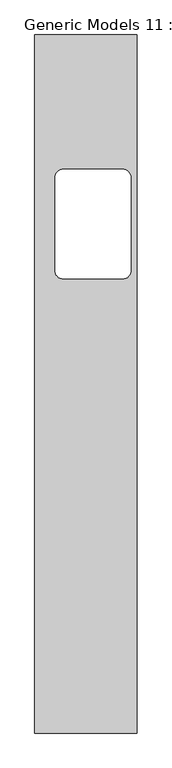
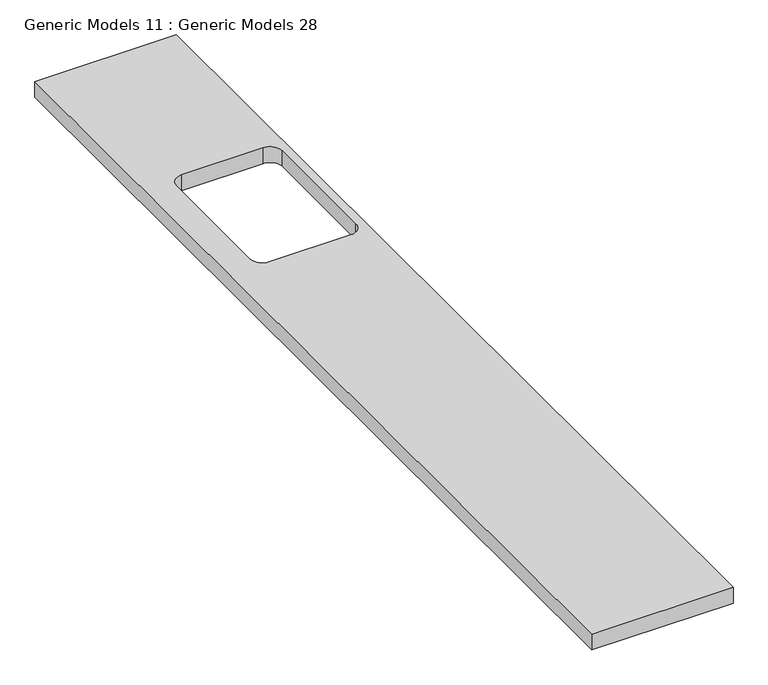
"""IFC4 building model written with IfcOpenShell, lengths in millimetres: proxy geometry, Generic Models 11 : Generic Models 28."""

import ifcopenshell
import ifcopenshell.guid

model = None  # the IFC model being written
_history = None  # IfcOwnerHistory: only IFC2X3 demands one
_inside = {}  # id of a spatial element -> (the spatial element, [elements in it])
_under = {}  # id of a project, library or spatial element -> (it, [spatial elements below it])
_declared = {}  # id of a project -> (the project, [libraries it declares])
_typed = {}  # id of a type object -> (the type object, [elements of that type])
_made_of = {}  # id of a material, layer set ... -> (it, [elements and type objects made of it])


def new_model(schema):
    """Start an empty IFC model of exactly this schema.

    Asked for "IFC4X3", IfcOpenShell would pick the latest addendum, in which some entities
    have other attributes; the version numbers below select the first issue.
    IFC2X3 requires an IfcOwnerHistory on every rooted entity: one is made here for all.
    """
    global model, _history
    if schema == "IFC4X3":
        model = ifcopenshell.file(schema_version=(4, 3, 0, 0))
    else:
        model = ifcopenshell.file(schema=schema)
    _inside.clear()
    _under.clear()
    _declared.clear()
    _typed.clear()
    _made_of.clear()
    _history = None
    if model.schema == "IFC2X3":
        org = make("IfcOrganization", Name="unknown")
        user = make(
            "IfcPersonAndOrganization",
            ThePerson=make("IfcPerson", FamilyName="unknown"),
            TheOrganization=org,
        )
        app = make(
            "IfcApplication",
            ApplicationDeveloper=org,
            Version="unknown",
            ApplicationFullName="unknown",
            ApplicationIdentifier="unknown",
        )
        _history = make(
            "IfcOwnerHistory",
            OwningUser=user,
            OwningApplication=app,
            ChangeAction="ADDED",
            CreationDate=0,
        )
    return model


def make(cls, **values):
    """One entity of the class cls with the attributes given. An attribute that is None is left unset."""
    return model.create_entity(
        cls, **{name: value for name, value in values.items() if value is not None}
    )


def rooted(cls, **values):
    """An entity with a GlobalId (a new one), such as an element, a storey or a relation."""
    return make(cls, GlobalId=ifcopenshell.guid.new(), OwnerHistory=_history, **values)


def si_unit(unit_type, name, prefix=None):
    """IfcSIUnit, for example si_unit("LENGTHUNIT", "METRE", prefix="MILLI")."""
    return make("IfcSIUnit", UnitType=unit_type, Prefix=prefix, Name=name)


def assignment(units):
    """IfcUnitAssignment: the units of a project."""
    return None if units is None else make("IfcUnitAssignment", Units=units)


def point(xyz):
    """IfcCartesianPoint."""
    return None if xyz is None else make("IfcCartesianPoint", Coordinates=xyz)


def direction(xyz):
    """IfcDirection."""
    return None if xyz is None else make("IfcDirection", DirectionRatios=xyz)


def frame(location, z_axis=None, x_axis=None):
    """IfcAxis2Placement3D, a coordinate frame: its origin and axes. An axis left out is left unset."""
    return make(
        "IfcAxis2Placement3D",
        Location=point(location),
        Axis=direction(z_axis),
        RefDirection=direction(x_axis),
    )


def frame_2d(location, x_axis=None):
    """IfcAxis2Placement2D, a coordinate frame in the plane: its origin and x axis."""
    return make(
        "IfcAxis2Placement2D", Location=point(location), RefDirection=direction(x_axis)
    )


def origin():
    """The frame at (0, 0, 0) with its axes left unset."""
    return frame((0.0, 0.0, 0.0))


def place(relative_to, where):
    """IfcLocalPlacement: puts the frame where relative to a parent placement (None: the world)."""
    return make(
        "IfcLocalPlacement", PlacementRelTo=relative_to, RelativePlacement=where
    )


def context(
    kind, dimensions, precision=None, world=None, true_north=None, identifier=None
):
    """IfcGeometricRepresentationContext, for example the 3D "Model" context."""
    return make(
        "IfcGeometricRepresentationContext",
        ContextIdentifier=identifier,
        ContextType=kind,
        CoordinateSpaceDimension=dimensions,
        Precision=precision,
        WorldCoordinateSystem=world,
        TrueNorth=true_north,
    )


def project(units=None, contexts=None):
    """IfcProject with its units and contexts."""
    return rooted(
        "IfcProject",
        Name="project",
        RepresentationContexts=contexts,
        UnitsInContext=assignment(units),
    )


def spatial(cls, under=None, at=None, **own):
    """A site, building, storey or space (cls), placed at a placement, below another one or the project."""
    s = rooted(cls, ObjectPlacement=at, **own)
    if under is not None:
        _under.setdefault(under.id(), (under, []))[1].append(s)
    return s


def polyline(points):
    """IfcPolyline through the points."""
    return make("IfcPolyline", Points=[point(p) for p in points])


def circle_curve(where, radius):
    """IfcCircle in the frame where."""
    return make("IfcCircle", Position=where, Radius=radius)


def trimmed(basis, trim1, trim2, sense, master):
    """IfcTrimmedCurve: the piece of a basis curve between two trims."""
    return make(
        "IfcTrimmedCurve",
        BasisCurve=basis,
        Trim1=trim1,
        Trim2=trim2,
        SenseAgreement=sense,
        MasterRepresentation=master,
    )


def segment(curve, same_sense, transition):
    """IfcCompositeCurveSegment."""
    return make(
        "IfcCompositeCurveSegment",
        Transition=transition,
        SameSense=same_sense,
        ParentCurve=curve,
    )


def composite_curve(segments, self_intersect=None):
    """IfcCompositeCurve: segments joined end to end."""
    return make("IfcCompositeCurve", Segments=segments, SelfIntersect=self_intersect)


def outline(outer, holes=None, kind="AREA"):
    """IfcArbitraryClosedProfileDef: a profile drawn as a closed curve; with holes, ...WithVoids."""
    if holes is None:
        return make("IfcArbitraryClosedProfileDef", ProfileType=kind, OuterCurve=outer)
    return make(
        "IfcArbitraryProfileDefWithVoids",
        ProfileType=kind,
        OuterCurve=outer,
        InnerCurves=holes,
    )


def extrude(swept, where, along, depth):
    """IfcExtrudedAreaSolid: the profile swept, set in the frame where, extruded along a direction by depth."""
    return make(
        "IfcExtrudedAreaSolid",
        SweptArea=swept,
        Position=where,
        ExtrudedDirection=direction(along),
        Depth=depth,
    )


def shape(context_of_items, identifier, shape_type, items):
    """IfcShapeRepresentation: the items that make up one representation, for example the "Body"."""
    return make(
        "IfcShapeRepresentation",
        ContextOfItems=context_of_items,
        RepresentationIdentifier=identifier,
        RepresentationType=shape_type,
        Items=items,
    )


def source(mapping_origin, context_of_items, identifier, shape_type, items):
    """IfcRepresentationMap: a shape defined once, which mapped items show again and again."""
    return make(
        "IfcRepresentationMap",
        MappingOrigin=mapping_origin,
        MappedRepresentation=shape(context_of_items, identifier, shape_type, items),
    )


def transform(
    local_origin,
    x_axis=None,
    y_axis=None,
    z_axis=None,
    scale=None,
    scale2=None,
    scale3=None,
    uniform=True,
):
    """IfcCartesianTransformationOperator3D, or its non-uniform kind. x_axis, y_axis, z_axis: its Axis1, 2, 3."""
    if uniform:
        return make(
            "IfcCartesianTransformationOperator3D",
            Axis1=direction(x_axis),
            Axis2=direction(y_axis),
            LocalOrigin=point(local_origin),
            Scale=scale,
            Axis3=direction(z_axis),
        )
    return make(
        "IfcCartesianTransformationOperator3DnonUniform",
        Axis1=direction(x_axis),
        Axis2=direction(y_axis),
        LocalOrigin=point(local_origin),
        Scale=scale,
        Axis3=direction(z_axis),
        Scale2=scale2,
        Scale3=scale3,
    )


def mapped(mapping_source, mapping_target):
    """IfcMappedItem: shows the shape of a source again, moved by a transform."""
    return make(
        "IfcMappedItem", MappingSource=mapping_source, MappingTarget=mapping_target
    )


def made_of(thing, what):
    """Note that an element or type object is made of a material, layer set ...; save() writes the relation."""
    if what is not None:
        _made_of.setdefault(what.id(), (what, []))[1].append(thing)
    return thing


def element(
    cls,
    number,
    at=None,
    inside=None,
    cuts=None,
    type_object=None,
    material=None,
    context=None,
    identifier="Body",
    shape_type=None,
    held_by="IfcProductDefinitionShape",
    body=None,
    shapes=None,
    **own,
):
    """One element of the class cls, such as IfcWall. Its Tag is "e" and its number.

    at: its placement. inside: the storey or other place that contains it. cuts: it is an
    opening in that element (IfcRelVoidsElement). A single representation is given by context,
    identifier, shape_type and body (its items); several are given by shapes. held_by: the class
    of the entity that holds the representations. save() writes the other relations.
    """
    e = rooted(cls, Tag="e%d" % number, ObjectPlacement=at, **own)
    if body is not None:
        shapes = [shape(context, identifier, shape_type, body)]
    if shapes is not None:
        e.Representation = make(held_by, Representations=shapes)
    if inside is not None:
        _inside.setdefault(inside.id(), (inside, []))[1].append(e)
    if cuts is not None:
        rooted(
            "IfcRelVoidsElement", RelatingBuildingElement=cuts, RelatedOpeningElement=e
        )
    if type_object is not None:
        _typed.setdefault(type_object.id(), (type_object, []))[1].append(e)
    return made_of(e, material)


def aggregate(whole, parts):
    """IfcRelAggregates: a whole, such as a stair, and the parts it consists of."""
    return rooted("IfcRelAggregates", RelatingObject=whole, RelatedObjects=parts)


def save(model, path):
    """Write the relations noted so far, then the file.

    IfcRelAggregates (storeys below a building ...), IfcRelContainedInSpatialStructure (elements
    in a storey), IfcRelDefinesByType, IfcRelAssociatesMaterial and IfcRelDeclares: one each for
    every whole, place, type object, material and project.
    """
    for whole, parts in _under.values():
        aggregate(whole, parts)
    for where, things in _inside.values():
        rooted(
            "IfcRelContainedInSpatialStructure",
            RelatedElements=things,
            RelatingStructure=where,
        )
    for kind, things in _typed.values():
        rooted("IfcRelDefinesByType", RelatedObjects=things, RelatingType=kind)
    for what, things in _made_of.values():
        rooted("IfcRelAssociatesMaterial", RelatedObjects=things, RelatingMaterial=what)
    for by, libraries in _declared.values():
        rooted("IfcRelDeclares", RelatingContext=by, RelatedDefinitions=libraries)
    model.write(path)


def generic_models_11_generic_models_28_18f8e35d(model_context):
    return source(origin(), model_context, "Body", "SweptSolid", [
        extrude(outline(polyline([(-21557.2739616, 4925.3301908), (-21557.2739616, 835.3301908), (-22157.2739616, 835.3301908), (-22157.2739616, 4925.3301908), (-21557.2739616, 4925.3301908)]), holes=[composite_curve([segment(polyline([(-21988.6338515, 3495.5992792), (-21642.6338515, 3495.5992792)]), True, "CONTINUOUS"), segment(trimmed(circle_curve(frame_2d((-21642.6338515, 3546.3992792)), 50.8), [point((-21642.6338515, 3495.5992792))], [point((-21591.8338515, 3546.3992792))], True, "CARTESIAN"), True, "CONTINUOUS"), segment(polyline([(-21591.8338515, 3546.3992792), (-21591.8338515, 4087.8992792)]), True, "CONTINUOUS"), segment(trimmed(circle_curve(frame_2d((-21642.6338515, 4087.8992792)), 50.8), [point((-21591.8338515, 4087.8992792))], [point((-21642.6338515, 4138.6992792))], True, "CARTESIAN"), True, "CONTINUOUS"), segment(polyline([(-21642.6338515, 4138.6992792), (-21988.6338515, 4138.6992792)]), True, "CONTINUOUS"), segment(trimmed(circle_curve(frame_2d((-21988.6338515, 4087.8992792)), 50.8), [point((-21988.6338515, 4138.6992792))], [point((-22039.4338515, 4087.8992792))], True, "CARTESIAN"), True, "CONTINUOUS"), segment(polyline([(-22039.4338515, 4087.8992792), (-22039.4338515, 3546.3992792)]), True, "CONTINUOUS"), segment(trimmed(circle_curve(frame_2d((-21988.6338515, 3546.3992792)), 50.8), [point((-22039.4338515, 3546.3992792))], [point((-21988.6338515, 3495.5992792))], True, "CARTESIAN"), True, "CONTINUOUS")], self_intersect=False)]), frame((0.0, 0.0, 830.0), z_axis=(0.0, 0.0, 1.0), x_axis=(1.0, 0.0, 0.0)), (0.0, 0.0, 1.0), 70.0),
    ])


if __name__ == "__main__":
    model = new_model("IFC4")
    model_context = context("Model", 3, world=origin())
    ifc_project = project(units=[si_unit("LENGTHUNIT", "METRE", prefix="MILLI")], contexts=[model_context])
    site = spatial("IfcSite", under=ifc_project)
    building = spatial("IfcBuilding", under=site)
    placement = place(None, origin())
    generic_models_11_generic_models_28_shape = generic_models_11_generic_models_28_18f8e35d(model_context)
    element("IfcBuildingElementProxy", 1, Name="Generic Models 11 : Generic Models 28", ObjectType="Generic Models 11 : Generic Models 28", at=placement, inside=building, context=model_context, shape_type="MappedRepresentation", body=[
        mapped(generic_models_11_generic_models_28_shape, transform((0.0, 0.0, 0.0), x_axis=(1.0, 0.0, 0.0), y_axis=(0.0, 1.0, 0.0), z_axis=(0.0, 0.0, 1.0))),
    ])
    save(model, "model.ifc")
